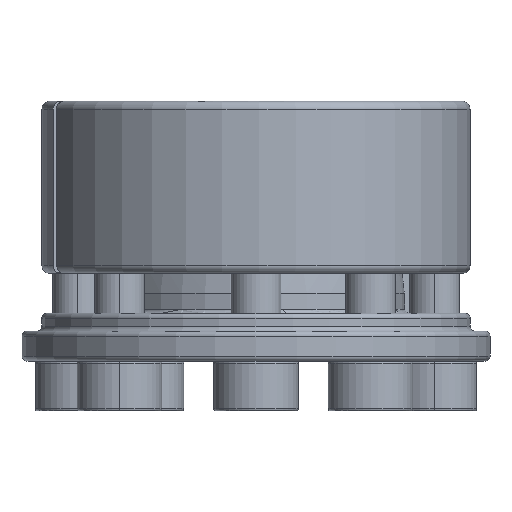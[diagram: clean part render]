
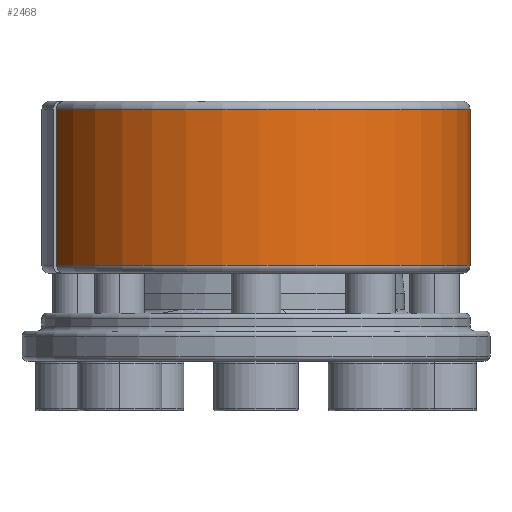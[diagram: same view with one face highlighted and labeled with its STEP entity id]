
A CAD part, front view. The second image highlights one B-rep face of the part: STEP entity #2468.
In plain terms, the highlighted cylindrical face has radius 21.5 mm (diameter 43 mm), a partial arc.
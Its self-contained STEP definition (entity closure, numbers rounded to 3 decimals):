
#631 = EDGE_LOOP ( 'NONE', ( #8786, #8787, #8788, #8789 ) ) ;
#1662 = AXIS2_PLACEMENT_3D ( 'NONE', #3431, #3429, #3427 ) ;
#2468 = ADVANCED_FACE ( 'NONE', ( #2779 ), #2784, .T. ) ;
#2779 = FACE_OUTER_BOUND ( 'NONE', #631, .T. ) ;
#2784 = CYLINDRICAL_SURFACE ( 'NONE', #1662, 21.5 ) ;
#3427 = DIRECTION ( 'NONE',  ( 1., 0., 0. ) ) ;
#3429 = DIRECTION ( 'NONE',  ( 0., 0., 1. ) ) ;
#3431 = CARTESIAN_POINT ( 'NONE',  ( 0., 0., 1.5 ) ) ;
#4945 = AXIS2_PLACEMENT_3D ( 'NONE', #5604, #5605, #5606 ) ;
#4946 = AXIS2_PLACEMENT_3D ( 'NONE', #5608, #5609, #5610 ) ;
#5576 = DIRECTION ( 'NONE',  ( 0., 0., 1. ) ) ;
#5599 = CARTESIAN_POINT ( 'NONE',  ( 21.5, 0., 1.5 ) ) ;
#5603 = DIRECTION ( 'NONE',  ( 0., 0., -1. ) ) ;
#5604 = CARTESIAN_POINT ( 'NONE',  ( 0., 0., -16.5 ) ) ;
#5605 = DIRECTION ( 'NONE',  ( 0., 0., 1. ) ) ;
#5606 = DIRECTION ( 'NONE',  ( 1., 0., 0. ) ) ;
#5607 = CARTESIAN_POINT ( 'NONE',  ( -20.027, -7.821, 1.5 ) ) ;
#5608 = CARTESIAN_POINT ( 'NONE',  ( 0., 0., -0.8 ) ) ;
#5609 = DIRECTION ( 'NONE',  ( 0., 0., 1. ) ) ;
#5610 = DIRECTION ( 'NONE',  ( 1., 0., 0. ) ) ;
#5697 = LINE ( 'NONE', #5599, #5702 ) ;
#5700 = CIRCLE ( 'NONE', #4945, 21.5 ) ;
#5701 = LINE ( 'NONE', #5607, #5706 ) ;
#5702 = VECTOR ( 'NONE', #5576, 1000. ) ;
#5703 = CIRCLE ( 'NONE', #4946, 21.5 ) ;
#5706 = VECTOR ( 'NONE', #5603, 1000. ) ;
#6564 = CARTESIAN_POINT ( 'NONE',  ( -20.027, -7.821, -16.5 ) ) ;
#6582 = CARTESIAN_POINT ( 'NONE',  ( 21.5, 0., -16.5 ) ) ;
#6583 = CARTESIAN_POINT ( 'NONE',  ( 21.5, 0., -0.8 ) ) ;
#6586 = CARTESIAN_POINT ( 'NONE',  ( -20.027, -7.821, -0.8 ) ) ;
#8786 = ORIENTED_EDGE ( 'NONE', *, *, #9196, .T. ) ;
#8787 = ORIENTED_EDGE ( 'NONE', *, *, #9195, .T. ) ;
#8788 = ORIENTED_EDGE ( 'NONE', *, *, #9197, .F. ) ;
#8789 = ORIENTED_EDGE ( 'NONE', *, *, #9198, .T. ) ;
#9195 = EDGE_CURVE ( 'NONE', #9372, #9373, #5697, .T. ) ;
#9196 = EDGE_CURVE ( 'NONE', #9354, #9372, #5700, .T. ) ;
#9197 = EDGE_CURVE ( 'NONE', #9376, #9373, #5703, .T. ) ;
#9198 = EDGE_CURVE ( 'NONE', #9376, #9354, #5701, .T. ) ;
#9354 = VERTEX_POINT ( 'NONE', #6564 ) ;
#9372 = VERTEX_POINT ( 'NONE', #6582 ) ;
#9373 = VERTEX_POINT ( 'NONE', #6583 ) ;
#9376 = VERTEX_POINT ( 'NONE', #6586 ) ;
